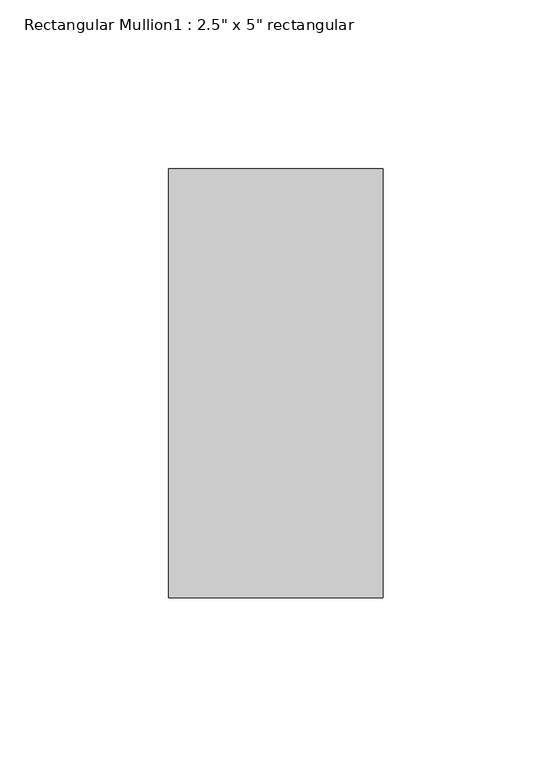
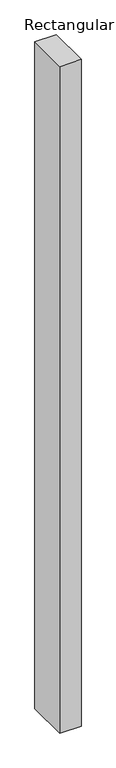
"""IFC4 building model written with IfcOpenShell, lengths in millimetres: member geometry."""

from ifc_helpers import new_model, si_unit, frame, origin, place, context, project, spatial, polyline, outline, extrude, source, transform, mapped, element, save


def member_a50b3385(model_context):
    return source(origin(), model_context, "Body", "SweptSolid", [
        extrude(outline(polyline([(31.75, 63.5), (31.75, -63.5), (-31.75, -63.5), (-31.75, 63.5), (31.75, 63.5)])), frame((0.0, 0.0, -2091.69), z_axis=(0.0, 0.0, 1.0), x_axis=(1.0, 0.0, 0.0)), (0.0, 0.0, 1.0), 2091.69),
    ])


if __name__ == "__main__":
    model = new_model("IFC4")
    model_context = context("Model", 3, world=origin())
    ifc_project = project(units=[si_unit("LENGTHUNIT", "METRE", prefix="MILLI")], contexts=[model_context])
    site = spatial("IfcSite", under=ifc_project)
    building = spatial("IfcBuilding", under=site)
    placement = place(None, origin())
    member_shape = member_a50b3385(model_context)
    element("IfcMember", 1, ObjectType="Rectangular Mullion1 : 2.5\" x 5\" rectangular", at=placement, inside=building, context=model_context, shape_type="MappedRepresentation", body=[
        mapped(member_shape, transform((0.0, 0.0, 0.0), x_axis=(1.0, 0.0, 0.0), y_axis=(0.0, 1.0, 0.0), z_axis=(0.0, 0.0, 1.0))),
    ])
    save(model, "model.ifc")
